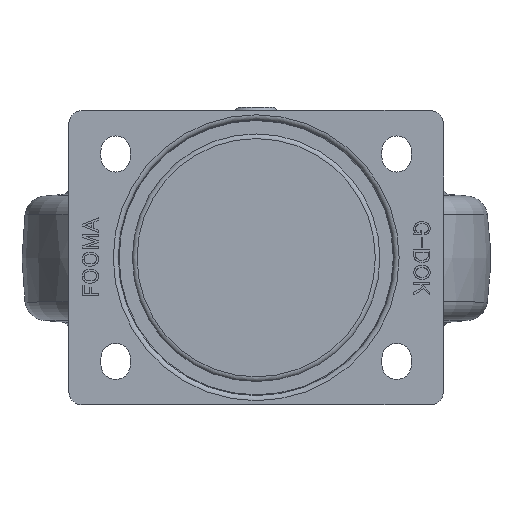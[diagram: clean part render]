
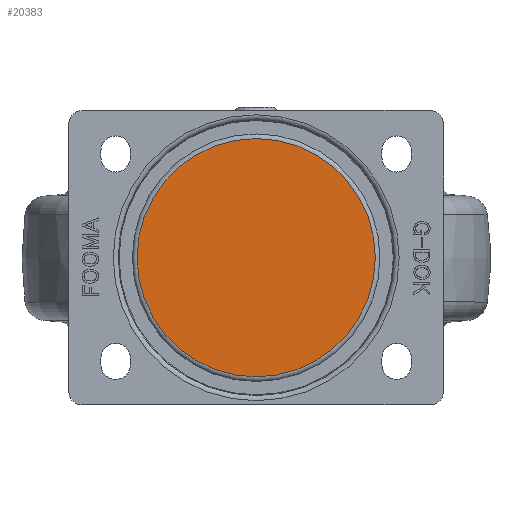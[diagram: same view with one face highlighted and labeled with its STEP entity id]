
A CAD part, top view. The second image highlights one B-rep face of the part: STEP entity #20383.
In plain terms, the highlighted planar face has unit normal (0, 0, 1).
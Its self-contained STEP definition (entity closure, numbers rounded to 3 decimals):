
#1695=FACE_OUTER_BOUND('',#3033,.T.);
#3033=EDGE_LOOP('',(#15889));
#6259=CIRCLE('',#21565,44.518);
#8922=VERTEX_POINT('',#32716);
#11345=EDGE_CURVE('',#8922,#8922,#6259,.T.);
#15889=ORIENTED_EDGE('',*,*,#11345,.F.);
#19746=PLANE('',#21568);
#20383=ADVANCED_FACE('',(#1695),#19746,.T.);
#21565=AXIS2_PLACEMENT_3D('',#32717,#24382,#24383);
#21568=AXIS2_PLACEMENT_3D('',#32721,#24388,#24389);
#24382=DIRECTION('center_axis',(0.,0.,-1.));
#24383=DIRECTION('ref_axis',(-1.,0.,0.));
#24388=DIRECTION('center_axis',(0.,0.,1.));
#24389=DIRECTION('ref_axis',(1.,0.,0.));
#32716=CARTESIAN_POINT('',(44.518,0.,-1.1));
#32717=CARTESIAN_POINT('Origin',(0.,0.,-1.1));
#32721=CARTESIAN_POINT('Origin',(0.,0.,-1.1));
